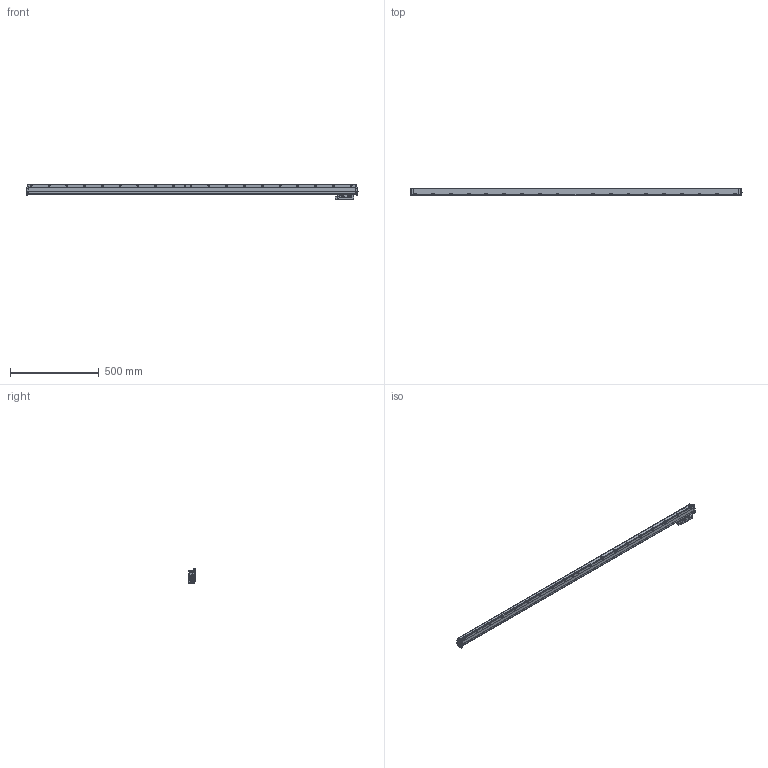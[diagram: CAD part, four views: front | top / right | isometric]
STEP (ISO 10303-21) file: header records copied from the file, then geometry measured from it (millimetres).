
FILE_DESCRIPTION(('Creo Elements/Direct Modeling STEP Export'),'2;1');
FILE_NAME('Regla G-1740-vs4.stp','2015-08-27T 8:36:54',(''),(''),'Creo Elements/Direct Modeling STEP processor for AP214 (Solid Model)','Creo Elements/Direct Modeling 18.1G 27-Feb-2015 (C) Parametric Technology GmbH','');
FILE_SCHEMA(('AUTOMOTIVE_DESIGN { 1 0 10303 214 1 1 1 1 }'));
Length unit declared in the file: millimetre
Products named in the file (3): Cabeza; Regla_G-1640-VS4; Regla_serie_G-1740-VS4
Assembly tree (2 placements, depth 2):
  Regla_serie_G-1740-VS4
    Regla_G-1640-VS4
    Cabeza
Bounding box: 1868.92 x 38 x 85 mm (x, y, z)
Volume: 2838081.3 mm3; surface area: 573869.7 mm2
Topology: 2 solids, 6 shells, 2374 faces, 7225 edges, 4817 vertices
Faces by surface type: cylinder 1194, plane 1004, cone 118, torus 31, sphere 21, bspline 5, extrusion 1
Entity records: 86082 total; most frequent: CARTESIAN_POINT 21341, ORIENTED_EDGE 14442, DIRECTION 12817, EDGE_CURVE 7221, VERTEX_POINT 4817, AXIS2_PLACEMENT_3D 4495, VECTOR 3827, LINE 3826
